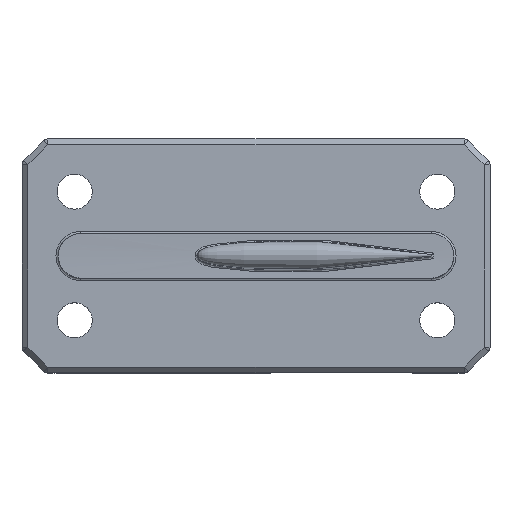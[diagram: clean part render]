
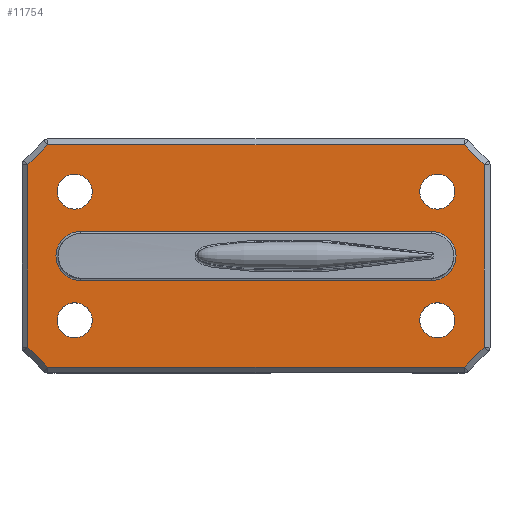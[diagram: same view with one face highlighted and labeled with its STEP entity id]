
A CAD part, top view. The second image highlights one B-rep face of the part: STEP entity #11754.
In plain terms, the highlighted planar face has unit normal (0, 0, 1).
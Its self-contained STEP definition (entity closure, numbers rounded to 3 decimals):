
#4437=AXIS2_PLACEMENT_3D('Circle Axis2P3D',#4435,#4436,$) ;
#4456=AXIS2_PLACEMENT_3D('Circle Axis2P3D',#4454,#4455,$) ;
#4480=AXIS2_PLACEMENT_3D('Circle Axis2P3D',#4478,#4479,$) ;
#4499=AXIS2_PLACEMENT_3D('Circle Axis2P3D',#4497,#4498,$) ;
#4523=AXIS2_PLACEMENT_3D('Circle Axis2P3D',#4521,#4522,$) ;
#4542=AXIS2_PLACEMENT_3D('Circle Axis2P3D',#4540,#4541,$) ;
#4566=AXIS2_PLACEMENT_3D('Circle Axis2P3D',#4564,#4565,$) ;
#4585=AXIS2_PLACEMENT_3D('Circle Axis2P3D',#4583,#4584,$) ;
#4656=AXIS2_PLACEMENT_3D('Circle Axis2P3D',#4654,#4655,$) ;
#4709=AXIS2_PLACEMENT_3D('Circle Axis2P3D',#4707,#4708,$) ;
#11664=AXIS2_PLACEMENT_3D('Plane Axis2P3D',#11661,#11662,#11663) ;
#4432=CARTESIAN_POINT('Vertex',(-12.,5.5,0.)) ;
#4435=CARTESIAN_POINT('Axis2P3D Location',(-10.5,5.5,0.)) ;
#4439=CARTESIAN_POINT('Vertex',(-9.,5.5,0.)) ;
#4454=CARTESIAN_POINT('Axis2P3D Location',(-10.5,5.5,0.)) ;
#4475=CARTESIAN_POINT('Vertex',(22.,5.5,0.)) ;
#4478=CARTESIAN_POINT('Axis2P3D Location',(20.5,5.5,0.)) ;
#4482=CARTESIAN_POINT('Vertex',(19.,5.5,0.)) ;
#4497=CARTESIAN_POINT('Axis2P3D Location',(20.5,5.5,0.)) ;
#4518=CARTESIAN_POINT('Vertex',(-9.,-5.5,0.)) ;
#4521=CARTESIAN_POINT('Axis2P3D Location',(-10.5,-5.5,0.)) ;
#4525=CARTESIAN_POINT('Vertex',(-12.,-5.5,0.)) ;
#4540=CARTESIAN_POINT('Axis2P3D Location',(-10.5,-5.5,0.)) ;
#4561=CARTESIAN_POINT('Vertex',(22.,-5.5,0.)) ;
#4564=CARTESIAN_POINT('Axis2P3D Location',(20.5,-5.5,0.)) ;
#4568=CARTESIAN_POINT('Vertex',(19.,-5.5,0.)) ;
#4583=CARTESIAN_POINT('Axis2P3D Location',(20.5,-5.5,0.)) ;
#4604=CARTESIAN_POINT('Vertex',(20.,-2.1,0.)) ;
#4620=CARTESIAN_POINT('Vertex',(-10.,-2.1,0.)) ;
#4623=CARTESIAN_POINT('Line Origine',(5.,-2.1,0.)) ;
#4651=CARTESIAN_POINT('Vertex',(-10.,2.1,0.)) ;
#4654=CARTESIAN_POINT('Axis2P3D Location',(-10.,0.,0.)) ;
#4682=CARTESIAN_POINT('Vertex',(20.,2.1,0.)) ;
#4685=CARTESIAN_POINT('Line Origine',(5.,2.1,0.)) ;
#4707=CARTESIAN_POINT('Axis2P3D Location',(20.,0.,0.)) ;
#11661=CARTESIAN_POINT('Axis2P3D Location',(0.,0.,0.)) ;
#11666=CARTESIAN_POINT('Line Origine',(24.5,0.,0.)) ;
#11670=CARTESIAN_POINT('Vertex',(24.5,-7.793,0.)) ;
#11672=CARTESIAN_POINT('Vertex',(24.5,7.793,0.)) ;
#11675=CARTESIAN_POINT('Line Origine',(23.646,8.646,0.)) ;
#11679=CARTESIAN_POINT('Vertex',(22.793,9.5,0.)) ;
#11682=CARTESIAN_POINT('Line Origine',(5.,9.5,0.)) ;
#11686=CARTESIAN_POINT('Vertex',(-12.793,9.5,0.)) ;
#11689=CARTESIAN_POINT('Line Origine',(-13.646,8.646,0.)) ;
#11693=CARTESIAN_POINT('Vertex',(-14.5,7.793,0.)) ;
#11696=CARTESIAN_POINT('Line Origine',(-14.5,0.,0.)) ;
#11700=CARTESIAN_POINT('Vertex',(-14.5,-7.793,0.)) ;
#11703=CARTESIAN_POINT('Line Origine',(-13.646,-8.646,0.)) ;
#11707=CARTESIAN_POINT('Vertex',(-12.793,-9.5,0.)) ;
#11710=CARTESIAN_POINT('Line Origine',(5.,-9.5,0.)) ;
#11714=CARTESIAN_POINT('Vertex',(22.793,-9.5,0.)) ;
#11717=CARTESIAN_POINT('Line Origine',(23.646,-8.646,0.)) ;
#4436=DIRECTION('Axis2P3D Direction',(0.,0.,-1.)) ;
#4455=DIRECTION('Axis2P3D Direction',(0.,0.,-1.)) ;
#4479=DIRECTION('Axis2P3D Direction',(0.,0.,-1.)) ;
#4498=DIRECTION('Axis2P3D Direction',(0.,0.,-1.)) ;
#4522=DIRECTION('Axis2P3D Direction',(0.,0.,-1.)) ;
#4541=DIRECTION('Axis2P3D Direction',(0.,0.,-1.)) ;
#4565=DIRECTION('Axis2P3D Direction',(0.,0.,-1.)) ;
#4584=DIRECTION('Axis2P3D Direction',(0.,0.,-1.)) ;
#4624=DIRECTION('Vector Direction',(1.,0.,0.)) ;
#4655=DIRECTION('Axis2P3D Direction',(0.,-0.,1.)) ;
#4686=DIRECTION('Vector Direction',(-1.,0.,0.)) ;
#4708=DIRECTION('Axis2P3D Direction',(0.,0.,1.)) ;
#11662=DIRECTION('Axis2P3D Direction',(0.,-0.,1.)) ;
#11663=DIRECTION('Axis2P3D XDirection',(0.,1.,0.)) ;
#11667=DIRECTION('Vector Direction',(0.,-1.,0.)) ;
#11676=DIRECTION('Vector Direction',(0.707,-0.707,0.)) ;
#11683=DIRECTION('Vector Direction',(-1.,0.,0.)) ;
#11690=DIRECTION('Vector Direction',(0.707,0.707,0.)) ;
#11697=DIRECTION('Vector Direction',(0.,1.,0.)) ;
#11704=DIRECTION('Vector Direction',(-0.707,0.707,0.)) ;
#11711=DIRECTION('Vector Direction',(1.,0.,0.)) ;
#11718=DIRECTION('Vector Direction',(0.707,0.707,0.)) ;
#4625=VECTOR('Line Direction',#4624,1.) ;
#4687=VECTOR('Line Direction',#4686,1.) ;
#11668=VECTOR('Line Direction',#11667,1.) ;
#11677=VECTOR('Line Direction',#11676,1.) ;
#11684=VECTOR('Line Direction',#11683,1.) ;
#11691=VECTOR('Line Direction',#11690,1.) ;
#11698=VECTOR('Line Direction',#11697,1.) ;
#11705=VECTOR('Line Direction',#11704,1.) ;
#11712=VECTOR('Line Direction',#11711,1.) ;
#11719=VECTOR('Line Direction',#11718,1.) ;
#11723=ORIENTED_EDGE('',*,*,#11674,.T.) ;
#11724=ORIENTED_EDGE('',*,*,#11681,.T.) ;
#11725=ORIENTED_EDGE('',*,*,#11688,.T.) ;
#11726=ORIENTED_EDGE('',*,*,#11695,.T.) ;
#11727=ORIENTED_EDGE('',*,*,#11702,.T.) ;
#11728=ORIENTED_EDGE('',*,*,#11709,.T.) ;
#11729=ORIENTED_EDGE('',*,*,#11716,.T.) ;
#11730=ORIENTED_EDGE('',*,*,#11721,.T.) ;
#11733=ORIENTED_EDGE('',*,*,#4627,.T.) ;
#11734=ORIENTED_EDGE('',*,*,#4658,.T.) ;
#11735=ORIENTED_EDGE('',*,*,#4689,.T.) ;
#11736=ORIENTED_EDGE('',*,*,#4711,.T.) ;
#11739=ORIENTED_EDGE('',*,*,#4441,.F.) ;
#11740=ORIENTED_EDGE('',*,*,#4458,.F.) ;
#11743=ORIENTED_EDGE('',*,*,#4484,.F.) ;
#11744=ORIENTED_EDGE('',*,*,#4501,.F.) ;
#11747=ORIENTED_EDGE('',*,*,#4527,.F.) ;
#11748=ORIENTED_EDGE('',*,*,#4544,.F.) ;
#11751=ORIENTED_EDGE('',*,*,#4570,.F.) ;
#11752=ORIENTED_EDGE('',*,*,#4587,.F.) ;
#11737=FACE_BOUND('',#11732,.T.) ;
#11741=FACE_BOUND('',#11738,.T.) ;
#11745=FACE_BOUND('',#11742,.T.) ;
#11749=FACE_BOUND('',#11746,.T.) ;
#11753=FACE_BOUND('',#11750,.T.) ;
#11754=ADVANCED_FACE('Corps principal',(#11731,#11737,#11741,#11745,#11749,#11753),#11665,.T.) ;
#4438=CIRCLE('generated circle',#4437,1.5) ;
#4457=CIRCLE('generated circle',#4456,1.5) ;
#4481=CIRCLE('generated circle',#4480,1.5) ;
#4500=CIRCLE('generated circle',#4499,1.5) ;
#4524=CIRCLE('generated circle',#4523,1.5) ;
#4543=CIRCLE('generated circle',#4542,1.5) ;
#4567=CIRCLE('generated circle',#4566,1.5) ;
#4586=CIRCLE('generated circle',#4585,1.5) ;
#4657=CIRCLE('generated circle',#4656,2.1) ;
#4710=CIRCLE('generated circle',#4709,2.1) ;
#4441=EDGE_CURVE('',#4433,#4440,#4438,.F.) ;
#4458=EDGE_CURVE('',#4440,#4433,#4457,.F.) ;
#4484=EDGE_CURVE('',#4476,#4483,#4481,.F.) ;
#4501=EDGE_CURVE('',#4483,#4476,#4500,.F.) ;
#4527=EDGE_CURVE('',#4519,#4526,#4524,.F.) ;
#4544=EDGE_CURVE('',#4526,#4519,#4543,.F.) ;
#4570=EDGE_CURVE('',#4562,#4569,#4567,.F.) ;
#4587=EDGE_CURVE('',#4569,#4562,#4586,.F.) ;
#4627=EDGE_CURVE('',#4605,#4621,#4626,.F.) ;
#4658=EDGE_CURVE('',#4621,#4652,#4657,.F.) ;
#4689=EDGE_CURVE('',#4652,#4683,#4688,.F.) ;
#4711=EDGE_CURVE('',#4683,#4605,#4710,.F.) ;
#11674=EDGE_CURVE('',#11671,#11673,#11669,.F.) ;
#11681=EDGE_CURVE('',#11673,#11680,#11678,.F.) ;
#11688=EDGE_CURVE('',#11680,#11687,#11685,.T.) ;
#11695=EDGE_CURVE('',#11687,#11694,#11692,.F.) ;
#11702=EDGE_CURVE('',#11694,#11701,#11699,.F.) ;
#11709=EDGE_CURVE('',#11701,#11708,#11706,.F.) ;
#11716=EDGE_CURVE('',#11708,#11715,#11713,.T.) ;
#11721=EDGE_CURVE('',#11715,#11671,#11720,.T.) ;
#11722=EDGE_LOOP('',(#11723,#11724,#11725,#11726,#11727,#11728,#11729,#11730)) ;
#11732=EDGE_LOOP('',(#11733,#11734,#11735,#11736)) ;
#11738=EDGE_LOOP('',(#11739,#11740)) ;
#11742=EDGE_LOOP('',(#11743,#11744)) ;
#11746=EDGE_LOOP('',(#11747,#11748)) ;
#11750=EDGE_LOOP('',(#11751,#11752)) ;
#11731=FACE_OUTER_BOUND('',#11722,.T.) ;
#4626=LINE('Line',#4623,#4625) ;
#4688=LINE('Line',#4685,#4687) ;
#11669=LINE('Line',#11666,#11668) ;
#11678=LINE('Line',#11675,#11677) ;
#11685=LINE('Line',#11682,#11684) ;
#11692=LINE('Line',#11689,#11691) ;
#11699=LINE('Line',#11696,#11698) ;
#11706=LINE('Line',#11703,#11705) ;
#11713=LINE('Line',#11710,#11712) ;
#11720=LINE('Line',#11717,#11719) ;
#11665=PLANE('',#11664) ;
#4433=VERTEX_POINT('',#4432) ;
#4440=VERTEX_POINT('',#4439) ;
#4476=VERTEX_POINT('',#4475) ;
#4483=VERTEX_POINT('',#4482) ;
#4519=VERTEX_POINT('',#4518) ;
#4526=VERTEX_POINT('',#4525) ;
#4562=VERTEX_POINT('',#4561) ;
#4569=VERTEX_POINT('',#4568) ;
#4605=VERTEX_POINT('',#4604) ;
#4621=VERTEX_POINT('',#4620) ;
#4652=VERTEX_POINT('',#4651) ;
#4683=VERTEX_POINT('',#4682) ;
#11671=VERTEX_POINT('',#11670) ;
#11673=VERTEX_POINT('',#11672) ;
#11680=VERTEX_POINT('',#11679) ;
#11687=VERTEX_POINT('',#11686) ;
#11694=VERTEX_POINT('',#11693) ;
#11701=VERTEX_POINT('',#11700) ;
#11708=VERTEX_POINT('',#11707) ;
#11715=VERTEX_POINT('',#11714) ;
